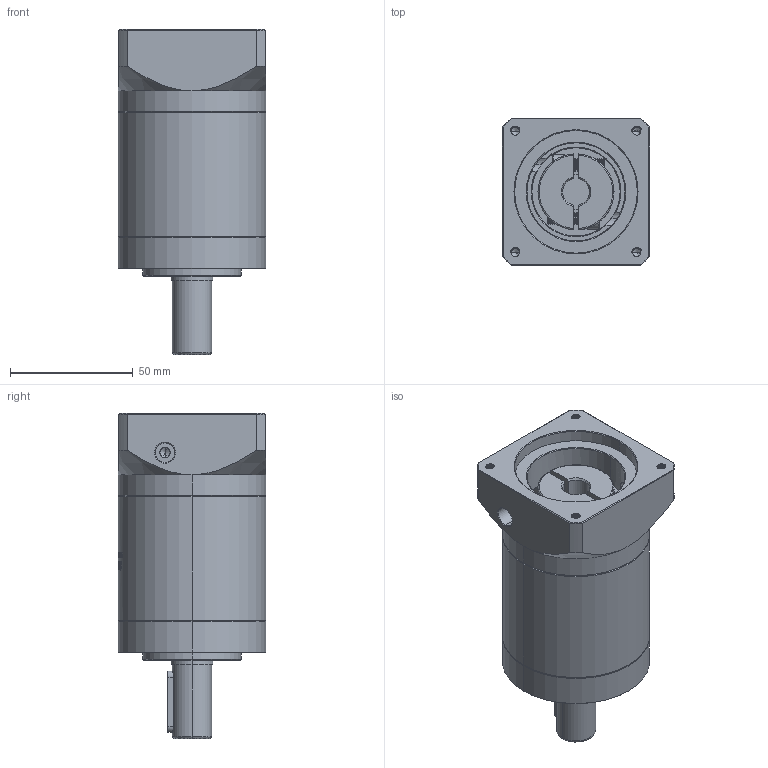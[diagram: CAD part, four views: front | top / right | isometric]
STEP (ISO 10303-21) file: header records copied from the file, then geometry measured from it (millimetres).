
FILE_DESCRIPTION (( 'STEP AP214' ), '1' );
FILE_NAME ('ZE60-D16-L2-11-50-70-M4.STEP', '2022-04-17T15:16:17', ( '' ), ( 'Microsoft' ), 'SwSTEP 2.0', 'SolidWorks 2016', '' );
FILE_SCHEMA (( 'AUTOMOTIVE_DESIGN' ));
Length unit declared in the file: millimetre
Products named in the file (1): ZE60-D16-L2-11-50-70-M4
Bounding box: 60 x 60 x 132.5 mm (x, y, z)
Volume: 264364.8 mm3; surface area: 46083.9 mm2
Topology: 6 solids, 6 shells, 1706 faces, 4639 edges, 3005 vertices
Faces by surface type: plane 732, cylinder 423, bspline 311, cone 222, torus 18
Entity records: 100041 total; most frequent: CARTESIAN_POINT 42623, ORIENTED_EDGE 9234, DIRECTION 6585, EDGE_CURVE 4617, VERTEX_POINT 3005, VECTOR 2299, LINE 2299, AXIS2_PLACEMENT_3D 2143
